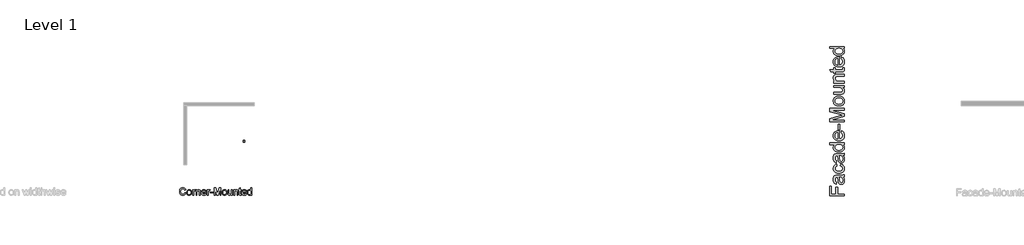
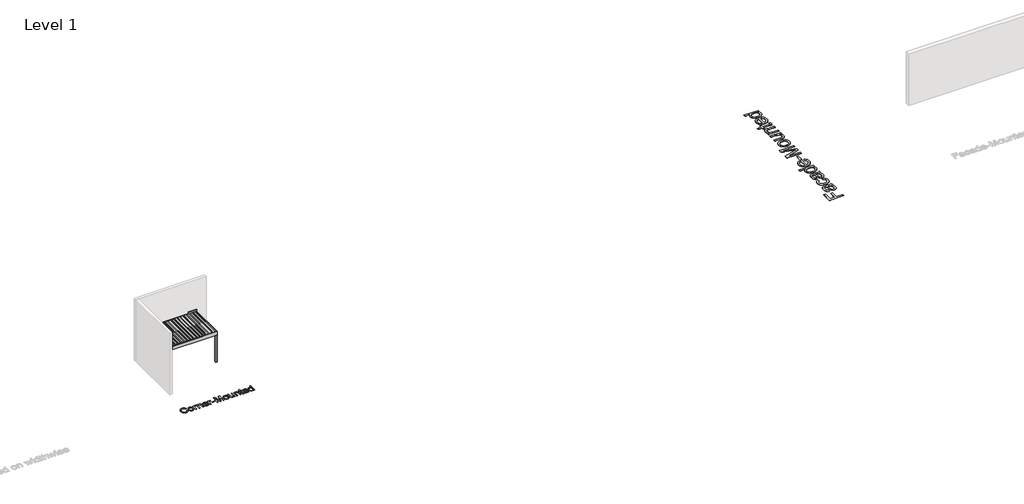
# One storey, part 28 of 47: 3 proxies.
"""IFC4 building model written with IfcOpenShell, lengths in millimetres."""

from ifc_helpers import new_model, si_unit, origin, origin_with_axes, place, context, project, spatial, polyline, outline, extrude, transform, mapped, element, save
from components import generic_models_6262f930

model = new_model("IFC4")

# Units and contexts
model_context = context("Model", 3, world=origin())
ifc_project = project(units=[si_unit("LENGTHUNIT", "METRE", prefix="MILLI")], contexts=[model_context])

# Site, building, storey
site = spatial("IfcSite", under=ifc_project)
building = spatial("IfcBuilding", under=site)
storey = spatial("IfcBuildingStorey", under=building, Name="Level 1", Elevation=0.0)

# Proxies
placement = place(None, origin())
generic_models_shape = generic_models_6262f930(model_context)
element("IfcBuildingElementProxy", 1, Name="Renson_Algarve_Single : Algarve - Single", ObjectType="Renson_Algarve_Single : Algarve - Single", at=placement, inside=storey, context=model_context, shape_type="MappedRepresentation", body=[
    mapped(generic_models_shape, transform((20845.156869, 40772.1593685, 0.0), x_axis=(1.0, 0.0, 0.0), y_axis=(0.0, 1.0, 0.0), z_axis=(0.0, 0.0, 1.0))),
])
element("IfcBuildingElementProxy", 2, Name="1000mm Arial", ObjectType="1000mm Arial", at=placement, inside=storey, context=model_context, shape_type="SweptSolid", body=[
    extrude(outline(polyline([(64082.9998219, 35814.1157871), (63078.4367204, 35814.1157871), (63078.4367204, 36489.0566209), (63204.0071081, 36489.0566209), (63204.0071081, 35939.6861748), (63502.2367789, 35939.6861748), (63502.2367789, 36410.5751286), (63627.8071665, 36410.5751286), (63627.8071665, 35939.6861748), (64082.9998219, 35939.6861748), (64082.9998219, 35814.1157871)])), origin_with_axes(), (0.0, 0.0, 1.0), 5.0),
    extrude(outline(polyline([(63988.8220311, 37116.9085593), (64016.7657344, 37087.1331103), (64040.2641968, 37056.9131373), (64059.3174185, 37026.2486401), (64073.9253994, 36995.1396189), (64084.7625898, 36963.23352), (64092.5034401, 36930.1777899), (64097.1479503, 36895.9724286), (64098.6961204, 36860.617436), (64094.9713152, 36804.707037), (64083.7968996, 36755.6790969), (64065.1728736, 36713.5336158), (64039.0992371, 36678.2705937), (64007.2314593, 36650.4265252), (63971.225009, 36630.5379049), (63931.0798863, 36618.6047326), (63886.7960911, 36614.6270086), (63834.7407888, 36620.6357478), (63810.5065624, 36628.1466719), (63787.4679524, 36638.6619656), (63747.000933, 36666.4677131), (63715.3630814, 36701.8150414), (63691.4507517, 36743.35505), (63674.1602979, 36789.7388383), (63664.5340524, 36834.92701), (63655.2756888, 36898.3866542), (63635.4100611, 37026.7774705), (63624.1896603, 37076.3495693), (63612.1108681, 37116.1727953), (63584.1518364, 37116.9085593), (63553.7096013, 37114.7472526), (63528.1111458, 37108.2633324), (63507.35647, 37097.4567988), (63491.4455737, 37082.3276518), (63475.5653342, 37056.1773733), (63464.222306, 37024.3249239), (63457.4164891, 36986.7703035), (63455.1478835, 36943.5135123), (63456.6577325, 36903.2917475), (63461.1872796, 36868.7108399), (63468.7365247, 36839.7707896), (63479.3054678, 36816.4715966), (63493.7218435, 36797.3264044), (63512.8133862, 36780.8483567), (63536.5800959, 36767.0374535), (63565.0219727, 36755.8936947), (63549.3256742, 36630.323307), (63513.1506114, 36639.8805747), (63480.6543685, 36652.1203152), (63451.8369455, 36667.0425287), (63426.6983425, 36684.647215), (63404.7327217, 36705.6931308), (63385.4342454, 36730.9390327), (63368.8029135, 36760.3849207), (63354.8387261, 36794.0307949), (63343.7869378, 36831.1945406), (63335.8928034, 36871.1940434), (63331.1563227, 36914.0293032), (63329.5774958, 36959.70032), (63335.1570394, 37044.5890904), (63342.1314689, 37080.4345923), (63351.8956702, 37111.8808387), (63377.06493, 37162.6178972), (63391.787874, 37182.1692924), (63407.9363608, 37197.8425983), (63446.1041178, 37221.2031049), (63493.1623563, 37236.3475804), (63536.5724317, 37240.9461054), (63603.0364455, 37242.478947), (63759.2636662, 37242.478947), (63895.3493475, 37244.0731023), (63977.4176893, 37248.8555683), (64031.3430584, 37258.2978728), (64082.9998219, 37273.8715439), (64082.9998219, 37148.3011562), (64039.3444918, 37128.1902738), (63988.8220311, 37116.9085593)]), holes=[polyline([(63737.6812558, 37116.9085593), (63758.5892158, 37032.5409551), (63776.1862379, 36914.3282073), (63785.8124835, 36849.1824373), (63796.542375, 36806.2935281), (63810.4605771, 36778.1812123), (63829.6517546, 36757.3652227), (63852.6443793, 36744.4893529), (63877.9669233, 36740.1973963), (63897.4799974, 36742.5349798), (63915.3069458, 36749.5477303), (63931.4477683, 36761.2356479), (63945.902465, 36777.5987324), (63957.8126446, 36798.4836999), (63966.3199158, 36823.737266), (63971.4242785, 36853.3594308), (63973.1257327, 36887.3501943), (63971.2480017, 36922.0537292), (63965.6148086, 36954.7952268), (63956.2261535, 36985.574687), (63943.0820364, 37014.39211), (63927.2707748, 37040.3891043), (63909.8806863, 37062.7072787), (63890.911771, 37081.3466331), (63870.3640287, 37096.3071676), (63851.9699289, 37104.9983797), (63829.6517546, 37111.2063884), (63773.243182, 37116.1727953), (63737.6812558, 37116.9085593)])]), origin_with_axes(), (0.0, 0.0, 1.0), 5.0),
    extrude(outline(polyline([(63816.1627481, 37886.0271839), (63831.8590465, 38011.5975716), (63891.1110404, 37997.9399525), (63943.5418889, 37976.5874684), (63989.1515921, 37947.5401192), (64027.94015, 37910.7979049), (64058.895887, 37867.9089956), (64081.0071278, 37820.4215614), (64094.2738722, 37768.3356023), (64098.6961204, 37711.6511182), (64097.1536985, 37675.5277887), (64092.5264327, 37641.2247087), (64084.8143232, 37608.7418782), (64074.0173699, 37578.0792971), (64060.1355727, 37549.2369655), (64043.1689317, 37522.2148833), (64023.1174469, 37497.0130506), (63999.9811183, 37473.6314673), (63973.9630474, 37452.5644749), (63945.2663358, 37434.3064149), (63913.8909833, 37418.8572871), (63879.8369901, 37406.2170917), (63843.1043561, 37396.3858286), (63803.6930813, 37389.3634978), (63716.8346094, 37383.7456332), (63659.1001288, 37386.1445303), (63605.0904533, 37393.3412219), (63554.8055831, 37405.3357077), (63508.2455181, 37422.127988), (63466.3452917, 37443.8330257), (63430.0399373, 37470.565784), (63399.3294549, 37502.3262629), (63374.2138445, 37539.1144624), (63354.685442, 37579.2672494), (63340.736583, 37621.1214905), (63332.3672676, 37664.6771859), (63329.5774958, 37709.9343355), (63333.4095999, 37765.6454652), (63344.9059123, 37816.0376343), (63364.0664328, 37861.1108429), (63390.8911616, 37900.865091), (63424.766962, 37934.6259283), (63465.0806973, 37961.7189044), (63511.8323676, 37982.1440193), (63565.0219727, 37995.9012731), (63580.7182712, 37870.3308854), (63551.3873463, 37860.5283631), (63525.9345107, 37847.5528586), (63504.3597645, 37831.4043718), (63486.6631077, 37812.0829029), (63472.8751971, 37790.078961), (63463.0266895, 37765.8830556), (63457.117585, 37739.4951867), (63455.1478835, 37710.9153542), (63459.0259728, 37668.248707), (63470.6602409, 37629.7667174), (63490.0506878, 37595.4693856), (63517.1973133, 37565.3567114), (63552.7285827, 37540.8389093), (63597.2729609, 37523.3261935), (63650.8304481, 37512.818564), (63713.4010441, 37509.3160208), (63776.9143377, 37512.7419219), (63831.0926257, 37523.0196252), (63875.9359081, 37540.1491306), (63911.4441848, 37564.1304381), (63938.429862, 37593.645304), (63957.7053457, 37627.3754845), (63969.2706359, 37665.3209794), (63973.1257327, 37707.4817889), (63970.7191713, 37741.457224), (63963.4994871, 37772.5049316), (63951.4666802, 37800.6249116), (63934.6207505, 37825.817164), (63912.7777571, 37847.3765818), (63885.7537588, 37864.5980577), (63853.5487558, 37877.4815917), (63816.1627481, 37886.0271839)])), origin_with_axes(), (0.0, 0.0, 1.0), 5.0),
    extrude(outline(polyline([(63988.8220311, 38592.3606146), (64016.7657344, 38562.5851657), (64040.2641968, 38532.3651926), (64059.3174185, 38501.7006955), (64073.9253994, 38470.5916742), (64084.7625898, 38438.6855754), (64092.5034401, 38405.6298453), (64097.1479503, 38371.4244839), (64098.6961204, 38336.0694913), (64094.9713152, 38280.1590923), (64083.7968996, 38231.1311522), (64065.1728736, 38188.9856711), (64039.0992371, 38153.7226491), (64007.2314593, 38125.8785805), (63971.225009, 38105.9899602), (63931.0798863, 38094.056788), (63886.7960911, 38090.0790639), (63834.7407888, 38096.0878031), (63810.5065624, 38103.5987272), (63787.4679524, 38114.1140209), (63747.000933, 38141.9197684), (63715.3630814, 38177.2670967), (63691.4507517, 38218.8071054), (63674.1602979, 38265.1908936), (63664.5340524, 38310.3790653), (63655.2756888, 38373.8387095), (63635.4100611, 38502.2295258), (63624.1896603, 38551.8016247), (63612.1108681, 38591.6248506), (63584.1518364, 38592.3606146), (63553.7096013, 38590.1993079), (63528.1111458, 38583.7153878), (63507.35647, 38572.9088541), (63491.4455737, 38557.7797071), (63475.5653342, 38531.6294286), (63464.222306, 38499.7769792), (63457.4164891, 38462.2223588), (63455.1478835, 38418.9655676), (63456.6577325, 38378.7438028), (63461.1872796, 38344.1628952), (63468.7365247, 38315.2228449), (63479.3054678, 38291.9236519), (63493.7218435, 38272.7784597), (63512.8133862, 38256.300412), (63536.5800959, 38242.4895088), (63565.0219727, 38231.34575), (63549.3256742, 38105.7753624), (63513.1506114, 38115.33263), (63480.6543685, 38127.5723706), (63451.8369455, 38142.494584), (63426.6983425, 38160.0992703), (63404.7327217, 38181.1451861), (63385.4342454, 38206.391088), (63368.8029135, 38235.8369761), (63354.8387261, 38269.4828502), (63343.7869378, 38306.6465959), (63335.8928034, 38346.6460987), (63331.1563227, 38389.4813585), (63329.5774958, 38435.1523754), (63335.1570394, 38520.0411458), (63342.1314689, 38555.8866477), (63351.8956702, 38587.332894), (63377.06493, 38638.0699525), (63391.787874, 38657.6213477), (63407.9363608, 38673.2946536), (63446.1041178, 38696.6551603), (63493.1623563, 38711.7996357), (63536.5724317, 38716.3981607), (63603.0364455, 38717.9310023), (63759.2636662, 38717.9310023), (63895.3493475, 38719.5251576), (63977.4176893, 38724.3076236), (64031.3430584, 38733.7499281), (64082.9998219, 38749.3235992), (64082.9998219, 38623.7532116), (64039.3444918, 38603.6423292), (63988.8220311, 38592.3606146)]), holes=[polyline([(63737.6812558, 38592.3606146), (63758.5892158, 38507.9930104), (63776.1862379, 38389.7802626), (63785.8124835, 38324.6344926), (63796.542375, 38281.7455834), (63810.4605771, 38253.6332676), (63829.6517546, 38232.817278), (63852.6443793, 38219.9414082), (63877.9669233, 38215.6494516), (63897.4799974, 38217.9870351), (63915.3069458, 38224.9997856), (63931.4477683, 38236.6877032), (63945.902465, 38253.0507878), (63957.8126446, 38273.9357552), (63966.3199158, 38299.1893213), (63971.4242785, 38328.8114861), (63973.1257327, 38362.8022496), (63971.2480017, 38397.5057845), (63965.6148086, 38430.2472821), (63956.2261535, 38461.0267424), (63943.0820364, 38489.8441653), (63927.2707748, 38515.8411596), (63909.8806863, 38538.159334), (63890.911771, 38556.7986884), (63870.3640287, 38571.7592229), (63851.9699289, 38580.450435), (63829.6517546, 38586.6584437), (63773.243182, 38591.6248506), (63737.6812558, 38592.3606146)])]), origin_with_axes(), (0.0, 0.0, 1.0), 5.0),
    extrude(outline(polyline([(64082.9998219, 39345.7829408), (63964.5418195, 39345.7829408), (63995.9842337, 39327.9904813), (64023.2343261, 39308.212992), (64046.2920966, 39286.4504727), (64065.1575451, 39262.7029235), (64079.8306718, 39236.9703444), (64090.3114766, 39209.2527353), (64096.5999594, 39179.5500963), (64098.6961204, 39147.8624274), (64095.6610939, 39106.4143892), (64086.5560145, 39066.6831338), (64071.3808822, 39028.6686609), (64050.135697, 38992.3709707), (64023.4565881, 38958.924366), (63991.9796849, 38929.4631496), (63955.7049874, 38903.9873214), (63914.6324954, 38882.4968815), (63869.5439584, 38865.436354), (63821.2211255, 38853.2502629), (63769.6639967, 38845.9386082), (63714.8725721, 38843.50139), (63661.0851587, 38845.747003), (63609.8422624, 38852.4838421), (63561.1438833, 38863.7119071), (63514.9900214, 38879.4311982), (63472.7295772, 38899.6340511), (63435.7114514, 38924.3128016), (63403.9356441, 38953.4674497), (63377.4021552, 38987.0979955), (63356.4788667, 39024.0164865), (63341.5336606, 39063.0349706), (63332.566537, 39104.1534478), (63329.5774958, 39147.371918), (63331.7158099, 39178.9791128), (63338.1307522, 39208.8082112), (63348.8223227, 39236.8592134), (63363.7905213, 39263.1321192), (63382.1769569, 39287.3356888), (63403.123238, 39309.1786822), (63426.6293646, 39328.6610996), (63452.6953368, 39345.7829408), (63078.4367204, 39345.7829408), (63078.4367204, 39471.3533284), (64082.9998219, 39471.3533284), (64082.9998219, 39345.7829408)]), holes=[polyline([(63714.3820627, 38969.0717777), (63775.2741971, 38972.6126419), (63827.9656288, 38983.2352345), (63872.4563575, 39000.9395555), (63908.7463835, 39025.725605), (63936.9123488, 39055.3247772), (63957.0308954, 39087.4684665), (63969.1020234, 39122.1566729), (63973.1257327, 39159.3893965), (63969.2859644, 39196.7983969), (63957.7666594, 39231.2796698), (63938.5678178, 39262.8332151), (63911.6894395, 39291.4590328), (63876.9169267, 39315.2257425), (63834.0356817, 39332.2019638), (63783.0457043, 39342.3876965), (63723.9469946, 39345.7829408), (63659.1537782, 39342.3263828), (63603.5882685, 39331.9567091), (63557.2504655, 39314.6739195), (63520.1403693, 39290.4780142), (63491.7061567, 39261.2237313), (63471.3960049, 39228.7658095), (63459.2099138, 39193.1042486), (63455.1478835, 39154.2390486), (63459.0489655, 39116.270561), (63470.7522114, 39081.5823546), (63490.2576214, 39050.1744292), (63517.5651953, 39022.046785), (63553.2727415, 38998.8702193), (63597.9780681, 38982.3155295), (63651.6811752, 38972.3827157), (63714.3820627, 38969.0717777)])]), origin_with_axes(), (0.0, 0.0, 1.0), 5.0),
    extrude(outline(polyline([(63863.2516435, 40176.2152312), (63878.9479419, 40299.3330723), (63928.2594577, 40280.4561274), (63971.7155184, 40254.972635), (64009.316124, 40222.8825951), (64041.0612745, 40184.1860078), (64066.2765195, 40139.2814117), (64084.2874089, 40088.5673459), (64095.0939425, 40032.0438101), (64098.6961204, 39969.7108046), (64097.1422021, 39929.6921413), (64092.4804475, 39891.7964637), (64084.7108564, 39856.0237718), (64073.8334289, 39822.3740655), (64059.8481649, 39790.8473449), (64042.7550645, 39761.4436101), (64022.5541276, 39734.1628609), (63999.2453543, 39709.0050973), (63973.1314808, 39686.4148436), (63944.5152433, 39666.8366236), (63913.3966419, 39650.2704375), (63879.7756764, 39636.7162853), (63843.652347, 39626.1741669), (63805.0266535, 39618.6440823), (63763.8985961, 39614.1260315), (63720.2681747, 39612.6200146), (63675.1528129, 39614.1413599), (63632.6356177, 39618.7053959), (63592.7165891, 39626.3121226), (63555.3957272, 39636.9615399), (63520.6730318, 39650.653648), (63488.548503, 39667.3884466), (63459.0221407, 39687.165936), (63432.0939451, 39709.986116), (63408.0666523, 39735.2320179), (63387.2429985, 39762.286673), (63369.6229838, 39791.1500812), (63355.2066081, 39821.8222425), (63343.9938715, 39854.303157), (63335.9847739, 39888.5928246), (63331.1793153, 39924.6912454), (63329.5774958, 39962.5984193), (63331.1754832, 39999.2659076), (63335.9694455, 40034.2204453), (63343.9593825, 40067.4620324), (63355.1452944, 40098.9906691), (63369.5271812, 40128.8063551), (63387.1050428, 40156.9090907), (63407.8788792, 40183.2988757), (63431.8486904, 40207.9757101), (63458.7155724, 40230.3072969), (63488.180621, 40249.6613387), (63520.2438361, 40266.0378356), (63554.9052178, 40279.4367877), (63592.1647662, 40289.8581948), (63632.0224811, 40297.3020571), (63719.5324107, 40303.2571469), (63753.3775542, 40302.5213829), (63753.3775542, 39738.1904023), (63803.4861477, 39745.4637359), (63847.371404, 39759.9260968), (63885.0333233, 39781.5774851), (63916.4719054, 39810.4179007), (63941.2579548, 39844.8531883), (63958.9622759, 39883.2891925), (63969.5848685, 39925.7259135), (63973.1257327, 39972.1633512), (63971.4855921, 40006.8975429), (63966.5651704, 40038.995247), (63958.3644676, 40068.4564635), (63946.8834837, 40095.2811923), (63931.8156503, 40119.4694335), (63912.8543991, 40141.021187), (63889.9997302, 40159.9364529), (63863.2516435, 40176.2152312)]), holes=[polyline([(63627.8071665, 39738.1904023), (63627.8071665, 40177.6867592), (63592.2758972, 40171.2334959), (63561.4657801, 40160.7028737), (63535.3768153, 40146.0948929), (63514.0090027, 40127.4095532), (63488.257263, 40093.1658708), (63469.8631633, 40054.2010361), (63458.8267034, 40010.5150492), (63455.1478835, 39962.10791), (63458.0832752, 39917.9544064), (63466.8894505, 39877.4643943), (63481.5664093, 39840.6378737), (63502.1141515, 39807.4748447), (63527.5823155, 39779.6461046), (63557.0205393, 39758.8224508), (63590.428823, 39745.0038834), (63627.8071665, 39738.1904023)])]), origin_with_axes(), (0.0, 0.0, 1.0), 5.0),
    extrude(outline(polyline([(63784.7701511, 40366.0423407), (63659.1997635, 40366.0423407), (63659.1997635, 40758.4498022), (63784.7701511, 40758.4498022), (63784.7701511, 40366.0423407)])), origin_with_axes(), (0.0, 0.0, 1.0), 5.0),
    extrude(outline(polyline([(64082.9998219, 40915.4127868), (63078.4367204, 40915.4127868), (63078.4367204, 41131.4821453), (63786.4869338, 41337.0055533), (63934.3754959, 41378.4535914), (63774.2242006, 41423.3351949), (63078.4367204, 41625.4250375), (63078.4367204, 41841.494396), (64082.9998219, 41841.494396), (64082.9998219, 41715.9240084), (63204.0071081, 41715.9240084), (64082.9998219, 41463.5569597), (64082.9998219, 41293.3502232), (63204.0071081, 41040.9831745), (64082.9998219, 41040.9831745), (64082.9998219, 40915.4127868)])), origin_with_axes(), (0.0, 0.0, 1.0), 5.0),
    extrude(outline(polyline([(63714.1368081, 42014.1536791), (63664.7141613, 42015.8513012), (63618.5947882, 42020.9441676), (63575.778689, 42029.4322782), (63536.2658634, 42041.3156331), (63500.0563116, 42056.5942322), (63467.1500336, 42075.2680756), (63437.5470293, 42097.3371632), (63411.2472987, 42122.801495), (63375.5167599, 42170.6568112), (63349.9949465, 42223.4785344), (63334.6818585, 42281.2666644), (63329.5774958, 42344.0212015), (63331.131414, 42379.4892411), (63335.7931687, 42413.2979797), (63343.5627598, 42445.4474172), (63354.4401873, 42475.9375536), (63368.4254513, 42504.7683889), (63385.5185517, 42531.9399231), (63405.7194885, 42557.4521563), (63429.0282618, 42581.3050883), (63455.0769895, 42602.8894148), (63483.4977897, 42621.595831), (63514.2906624, 42637.4243371), (63547.4556074, 42650.3749329), (63582.992625, 42660.4476186), (63620.9017149, 42667.6423941), (63703.8361122, 42673.3982145), (63771.0512184, 42670.8536973), (63830.6940869, 42663.2201459), (63882.7647176, 42650.4975603), (63927.2631106, 42632.6859403), (63965.6991149, 42610.0075482), (63999.5825795, 42582.6846458), (64028.9135044, 42550.7172333), (64053.6918896, 42514.1053106), (64073.3812406, 42474.2744204), (64087.4450627, 42432.6501055), (64095.8833559, 42389.2323658), (64098.6961204, 42344.0212015), (64097.1479503, 42307.9936746), (64092.5034401, 42273.7327477), (64084.7625898, 42241.2384209), (64073.9253994, 42210.510694), (64059.9918688, 42181.5495672), (64042.9619981, 42154.3550403), (64022.8357873, 42128.9271134), (63999.6132363, 42105.2657866), (63973.4782863, 42083.9113864), (63944.6148781, 42065.4042396), (63913.0230117, 42049.7443461), (63878.7026873, 42036.931706), (63841.6539047, 42026.9663192), (63801.8766639, 42019.8481858), (63714.1368081, 42014.1536791)]), holes=[polyline([(63713.8915534, 42139.7240668), (63774.7990162, 42143.3569015), (63827.5364331, 42154.2554056), (63872.103804, 42172.4195791), (63908.5011289, 42197.849422), (63936.774393, 42228.7821665), (63956.9695817, 42263.4550445), (63969.0866949, 42301.8680562), (63973.1257327, 42344.0212015), (63969.0637023, 42385.9597489), (63956.8776112, 42424.2194764), (63936.5674594, 42458.8003839), (63908.1332469, 42489.7024715), (63871.3757042, 42515.1323145), (63826.0955619, 42533.296488), (63772.2928201, 42544.1949921), (63709.9674788, 42547.8278268), (63650.9913964, 42544.1719995), (63599.6335371, 42533.2045175), (63555.8939007, 42514.9253808), (63519.7724873, 42489.3345895), (63491.4992231, 42458.3175388), (63471.3040344, 42423.7596239), (63459.1869212, 42385.6608448), (63455.1478835, 42344.0212015), (63459.1715928, 42301.8680562), (63471.2427208, 42263.4550445), (63491.3612674, 42228.7821665), (63519.5272326, 42197.849422), (63555.8172586, 42172.4195791), (63600.3079874, 42154.2554056), (63652.999419, 42143.3569015), (63713.8915534, 42139.7240668)])]), origin_with_axes(), (0.0, 0.0, 1.0), 5.0),
    extrude(outline(polyline([(64082.9998219, 43285.5538544), (63956.2031609, 43285.5538544), (63989.5999483, 43263.7721746), (64018.5438307, 43240.120428), (64043.0348081, 43214.5986146), (64063.0728805, 43187.2067344), (64078.6580479, 43157.9447874), (64089.7903104, 43126.8127735), (64096.4696679, 43093.8106929), (64098.6961204, 43058.9385454), (64097.1326219, 43027.8295242), (64092.4421264, 42997.7781637), (64084.6246341, 42968.784464), (64073.6801447, 42940.848425), (64045.4758584, 42893.0850793), (64028.9824823, 42874.4917101), (64010.8949509, 42859.4238767), (63968.8950897, 42836.7684772), (63918.4339427, 42822.0225405), (63870.854538, 42816.5043106), (63801.6927229, 42814.6649006), (63345.2737942, 42814.6649006), (63345.2737942, 42940.2352883), (63742.586349, 42940.2352883), (63822.04886, 42942.1360119), (63870.6092834, 42947.8381829), (63893.2416903, 42955.3567711), (63913.3142516, 42966.1403121), (63930.8269674, 42980.1888058), (63945.7798377, 42997.5022522), (63957.7436668, 43017.5594852), (63966.2892589, 43039.8393385), (63971.4166142, 43064.3418122), (63973.1257327, 43091.0669063), (63971.3782932, 43118.5890781), (63966.1359748, 43145.2375301), (63957.3987774, 43171.0122624), (63945.166701, 43195.9132749), (63929.9225909, 43218.5916671), (63912.149292, 43237.6985382), (63891.8468044, 43253.2338883), (63869.015128, 43265.1977174), (63842.1980634, 43274.1035273), (63809.939411, 43280.4648202), (63729.0973425, 43285.5538544), (63345.2737942, 43285.5538544), (63345.2737942, 43411.1242421), (64082.9998219, 43411.1242421), (64082.9998219, 43285.5538544)])), origin_with_axes(), (0.0, 0.0, 1.0), 5.0),
    extrude(outline(polyline([(64082.9998219, 43583.7835252), (63345.2737942, 43583.7835252), (63345.2737942, 43709.3539129), (63448.2807529, 43709.3539129), (63420.459677, 43730.0702677), (63396.3480779, 43752.9785861), (63375.9459556, 43778.0788681), (63359.2533101, 43805.3711136), (63346.2701413, 43834.8553227), (63336.9964494, 43866.5314953), (63331.4322342, 43900.3996315), (63329.5774958, 43936.4597312), (63335.5555782, 43998.3558769), (63343.0281812, 44027.3495767), (63353.4898255, 44055.040361), (63366.3810237, 44080.3782334), (63381.1422888, 44102.3131974), (63397.7736206, 44120.8452529), (63416.2750193, 44135.9744), (63458.7960466, 44158.8137405), (63508.6134001, 44173.6209908), (63556.2541185, 44178.5873977), (63630.0144585, 44180.2428667), (64082.9998219, 44180.2428667), (64082.9998219, 44054.672479), (63646.9370303, 44054.672479), (63582.0058581, 44051.0549727), (63535.8366677, 44040.2024539), (63518.3699372, 44031.5802196), (63502.757945, 44020.183542), (63489.0006912, 44006.012421), (63477.0981759, 43989.0668566), (63460.6354566, 43949.1823169), (63455.1478835, 43902.8598423), (63458.2288952, 43864.7304064), (63467.4719303, 43829.3141001), (63482.8769889, 43796.6109236), (63504.4440708, 43766.6208768), (63534.6257228, 43741.5665801), (63575.8744916, 43723.6706539), (63628.190377, 43712.9330981), (63691.573379, 43709.3539129), (64082.9998219, 43709.3539129), (64082.9998219, 43583.7835252)])), origin_with_axes(), (0.0, 0.0, 1.0), 5.0),
    extrude(outline(polyline([(63978.2760806, 44619.7392236), (64086.6786419, 44635.4355221), (64095.6917507, 44585.7101391), (64098.6961204, 44541.502986), (64093.4844588, 44481.2316524), (64086.9698818, 44456.8441418), (64077.849474, 44436.2887354), (64053.7532033, 44404.5282564), (64039.2678497, 44392.7866894), (64023.157684, 44383.8042374), (64001.5599452, 44377.1517046), (63970.6118724, 44372.3998955), (63880.6647246, 44368.5984482), (63470.8441819, 44368.5984482), (63470.8441819, 44274.4206575), (63345.2737942, 44274.4206575), (63345.2737942, 44368.5984482), (63165.9926353, 44368.5984482), (63092.1709816, 44494.1688359), (63345.2737942, 44494.1688359), (63345.2737942, 44619.7392236), (63470.8441819, 44619.7392236), (63470.8441819, 44494.1688359), (63876.9859046, 44494.1688359), (63918.3113154, 44495.8243049), (63941.7331358, 44500.7907118), (63954.7009761, 44509.4665956), (63964.6644468, 44522.2504949), (63971.0104112, 44540.3686832), (63973.1257327, 44565.0474337), (63978.2760806, 44619.7392236)])), origin_with_axes(), (0.0, 0.0, 1.0), 5.0),
    extrude(outline(polyline([(63863.2516435, 45261.8159325), (63878.9479419, 45384.9337736), (63928.2594577, 45366.0568287), (63971.7155184, 45340.5733363), (64009.316124, 45308.4832965), (64041.0612745, 45269.7867091), (64066.2765195, 45224.8821131), (64084.2874089, 45174.1680472), (64095.0939425, 45117.6445115), (64098.6961204, 45055.3115059), (64097.1422021, 45015.2928426), (64092.4804475, 44977.397165), (64084.7108564, 44941.6244731), (64073.8334289, 44907.9747668), (64059.8481649, 44876.4480463), (64042.7550645, 44847.0443114), (64022.5541276, 44819.7635622), (63999.2453543, 44794.6057987), (63973.1314808, 44772.0155449), (63944.5152433, 44752.437325), (63913.3966419, 44735.8711389), (63879.7756764, 44722.3169866), (63843.652347, 44711.7748682), (63805.0266535, 44704.2447836), (63763.8985961, 44699.7267328), (63720.2681747, 44698.2207159), (63675.1528129, 44699.7420613), (63632.6356177, 44704.3060973), (63592.7165891, 44711.9128239), (63555.3957272, 44722.5622413), (63520.6730318, 44736.2543493), (63488.548503, 44752.989148), (63459.0221407, 44772.7666373), (63432.0939451, 44795.5868173), (63408.0666523, 44820.8327192), (63387.2429985, 44847.8873743), (63369.6229838, 44876.7507825), (63355.2066081, 44907.4229438), (63343.9938715, 44939.9038583), (63335.9847739, 44974.193526), (63331.1793153, 45010.2919467), (63329.5774958, 45048.1991207), (63331.1754832, 45084.8666089), (63335.9694455, 45119.8211466), (63343.9593825, 45153.0627338), (63355.1452944, 45184.5913704), (63369.5271812, 45214.4070565), (63387.1050428, 45242.509792), (63407.8788792, 45268.899577), (63431.8486904, 45293.5764114), (63458.7155724, 45315.9079982), (63488.180621, 45335.26204), (63520.2438361, 45351.638537), (63554.9052178, 45365.037489), (63592.1647662, 45375.4588962), (63632.0224811, 45382.9027584), (63719.5324107, 45388.8578482), (63753.3775542, 45388.1220842), (63753.3775542, 44823.7911036), (63803.4861477, 44831.0644372), (63847.371404, 44845.5267982), (63885.0333233, 44867.1781864), (63916.4719054, 44896.018602), (63941.2579548, 44930.4538896), (63958.9622759, 44968.8898939), (63969.5848685, 45011.3266149), (63973.1257327, 45057.7640525), (63971.4855921, 45092.4982443), (63966.5651704, 45124.5959483), (63958.3644676, 45154.0571648), (63946.8834837, 45180.8818936), (63931.8156503, 45205.0701348), (63912.8543991, 45226.6218883), (63889.9997302, 45245.5371542), (63863.2516435, 45261.8159325)]), holes=[polyline([(63627.8071665, 44823.7911036), (63627.8071665, 45263.2874605), (63592.2758972, 45256.8341972), (63561.4657801, 45246.3035751), (63535.3768153, 45231.6955942), (63514.0090027, 45213.0102545), (63488.257263, 45178.7665721), (63469.8631633, 45139.8017375), (63458.8267034, 45096.1157505), (63455.1478835, 45047.7086113), (63458.0832752, 45003.5551077), (63466.8894505, 44963.0650956), (63481.5664092, 44926.2385751), (63502.1141515, 44893.075546), (63527.5823155, 44865.2468059), (63557.0205393, 44844.4231522), (63590.428823, 44830.6045847), (63627.8071665, 44823.7911036)])]), origin_with_axes(), (0.0, 0.0, 1.0), 5.0),
    extrude(outline(polyline([(64082.9998219, 45969.6208913), (63964.5418195, 45969.6208913), (63995.9842337, 45951.8284318), (64023.2343261, 45932.0509425), (64046.2920966, 45910.2884232), (64065.1575451, 45886.540874), (64079.8306718, 45860.8082949), (64090.3114766, 45833.0906858), (64096.5999594, 45803.3880468), (64098.6961204, 45771.7003778), (64095.6610939, 45730.2523397), (64086.5560145, 45690.5210842), (64071.3808822, 45652.5066114), (64050.135697, 45616.2089212), (64023.4565881, 45582.7623165), (63991.9796849, 45553.3011), (63955.7049874, 45527.8252719), (63914.6324954, 45506.334832), (63869.5439584, 45489.2743045), (63821.2211255, 45477.0882134), (63769.6639967, 45469.7765587), (63714.8725721, 45467.3393405), (63661.0851587, 45469.5849535), (63609.8422624, 45476.3217926), (63561.1438833, 45487.5498576), (63514.9900214, 45503.2691487), (63472.7295772, 45523.4720016), (63435.7114514, 45548.1507521), (63403.9356441, 45577.3054002), (63377.4021552, 45610.935946), (63356.4788667, 45647.854437), (63341.5336606, 45686.8729211), (63332.566537, 45727.9913983), (63329.5774958, 45771.2098685), (63331.7158099, 45802.8170633), (63338.1307522, 45832.6461617), (63348.8223227, 45860.6971638), (63363.7905213, 45886.9700697), (63382.1769569, 45911.1736393), (63403.123238, 45933.0166327), (63426.6293646, 45952.4990501), (63452.6953368, 45969.6208913), (63078.4367204, 45969.6208913), (63078.4367204, 46095.1912789), (64082.9998219, 46095.1912789), (64082.9998219, 45969.6208913)]), holes=[polyline([(63714.3820627, 45592.9097282), (63775.2741971, 45596.4505924), (63827.9656288, 45607.073185), (63872.4563575, 45624.777506), (63908.7463835, 45649.5635554), (63936.9123488, 45679.1627276), (63957.0308954, 45711.306417), (63969.1020234, 45745.9946234), (63973.1257327, 45783.227347), (63969.2859644, 45820.6363474), (63957.7666594, 45855.1176203), (63938.5678178, 45886.6711655), (63911.6894395, 45915.2969833), (63876.9169267, 45939.063693), (63834.0356817, 45956.0399143), (63783.0457043, 45966.225647), (63723.9469946, 45969.6208913), (63659.1537782, 45966.1643333), (63603.5882685, 45955.7946596), (63557.2504655, 45938.51187), (63520.1403693, 45914.3159646), (63491.7061567, 45885.0616818), (63471.3960049, 45852.60376), (63459.2099138, 45816.942199), (63455.1478835, 45778.0769991), (63459.0489655, 45740.1085115), (63470.7522114, 45705.420305), (63490.2576214, 45674.0123797), (63517.5651953, 45645.8847355), (63553.2727415, 45622.7081698), (63597.9780681, 45606.15348), (63651.6811752, 45596.2206661), (63714.3820627, 45592.9097282)])]), origin_with_axes(), (0.0, 0.0, 1.0), 5.0),
])
element("IfcBuildingElementProxy", 3, Name="500mm Arial", ObjectType="500mm Arial", at=placement, inside=storey, context=model_context, shape_type="SweptSolid", body=[
    extrude(outline(polyline([(18729.7725136, 36050.7047635), (18792.5577075, 36034.5179557), (18780.1340259, 35995.4726468), (18763.5870003, 35961.3554239), (18742.9166307, 35932.1662868), (18718.1229171, 35907.9052357), (18689.7653466, 35888.8328535), (18658.4034066, 35875.2097233), (18624.0370968, 35867.0358453), (18586.6664175, 35864.3112192), (18548.3798653, 35866.3728913), (18513.8411109, 35872.5579073), (18483.0501543, 35882.8662674), (18456.0069955, 35897.2979715), (18432.3399205, 35915.6384218), (18411.6772151, 35937.6730204), (18394.0188794, 35963.4017675), (18379.3649132, 35992.8246629), (18367.8571045, 36024.6694481), (18359.6372412, 36057.6638645), (18354.7053232, 36091.8079122), (18353.0613506, 36127.1015911), (18354.9199211, 36164.970444), (18360.4956325, 36200.340765), (18369.788485, 36233.2125541), (18382.7984785, 36263.5858113), (18399.2343731, 36290.958531), (18418.8049288, 36314.8287076), (18441.5101457, 36335.196341), (18467.3500237, 36352.0614312), (18495.4470111, 36365.2860225), (18524.923556, 36374.7321591), (18555.7796583, 36380.3998411), (18588.0153181, 36382.2890684), (18623.9259658, 36379.844186), (18656.8552365, 36372.5095387), (18686.8031302, 36360.2851266), (18713.7696468, 36343.1709496), (18737.3102624, 36321.6191961), (18756.9804528, 36296.0820542), (18772.7802181, 36266.5595241), (18784.7095582, 36233.0516057), (18721.9243644, 36218.0910713), (18712.0375358, 36242.7813181), (18700.158013, 36263.8770513), (18686.2857961, 36281.3782708), (18670.4208851, 36295.2849766), (18652.4713094, 36305.8807445), (18632.3450986, 36313.4491501), (18610.0422526, 36317.9901935), (18585.5627715, 36319.5038746), (18557.3968063, 36317.825413), (18531.6374024, 36312.7900282), (18508.2845599, 36304.3977202), (18487.3382788, 36292.648489), (18469.0629743, 36278.0711649), (18453.7230615, 36261.1945784), (18441.3185405, 36242.0187294), (18431.8494112, 36220.5436179), (18419.8472611, 36174.5890253), (18415.8465444, 36127.2242185), (18420.5830251, 36069.2214906), (18434.7924672, 36019.0669119), (18445.5836723, 35997.4116915), (18459.0113652, 35978.6765345), (18475.0755456, 35962.8614408), (18493.7762137, 35949.9664104), (18535.4541781, 35932.8139124), (18580.4124236, 35927.0964131), (18607.7085012, 35929.043122), (18632.8202795, 35934.8832486), (18655.7477584, 35944.6167931), (18676.490938, 35958.2437553), (18694.5593089, 35975.7028217), (18709.4623618, 35996.9326785), (18721.2000967, 36021.9333258), (18729.7725136, 36050.7047635)])), origin_with_axes(), (0.0, 0.0, 1.0), 5.0),
    extrude(outline(polyline([(18855.3429013, 36056.5908754), (18858.7381456, 36104.3618853), (18868.9238783, 36145.5263477), (18885.9000995, 36180.0842626), (18909.6668093, 36208.0356301), (18933.5944674, 36225.9008995), (18960.0053289, 36238.6618062), (18988.899394, 36246.3183502), (19020.2766625, 36248.8705315), (19054.9150516, 36245.7626951), (19086.2348385, 36236.4391858), (19114.2360233, 36220.9000036), (19138.9186059, 36199.1451485), (19159.0639773, 36171.9103846), (19173.4535282, 36139.9314757), (19182.0872588, 36103.208422), (19184.965169, 36061.7412233), (19179.8761347, 35998.312236), (19173.5148419, 35972.2769206), (19164.6090319, 35950.0277241), (19153.2698358, 35930.809722), (19139.6083847, 35913.8679897), (19123.6246784, 35899.2025272), (19105.318717, 35886.8133346), (19064.5911145, 35869.9367481), (19020.2766625, 35864.3112192), (18985.1324356, 35867.4075594), (18953.5214088, 35876.6965797), (18925.4435819, 35892.1782804), (18900.898955, 35913.8526613), (18880.9681815, 35941.3518404), (18866.7319147, 35974.3079358), (18858.1901547, 36012.7209475), (18855.3429013, 36056.5908754)]), holes=[polyline([(18918.1280951, 36056.7135027), (18919.9445125, 36026.2597713), (18925.3937646, 35999.8910629), (18934.4758513, 35977.6073774), (18947.1907728, 35959.408715), (18962.657145, 35945.2720829), (18979.993584, 35935.1744886), (18999.2000898, 35929.115932), (19020.2766625, 35927.0964131), (19041.2459362, 35929.1274283), (19060.3757999, 35935.2204738), (19077.6662537, 35945.3755497), (19093.1172975, 35959.592656), (19105.832219, 35977.9714273), (19114.9143057, 36000.6114985), (19120.3635578, 36027.5128693), (19122.1799751, 36058.67554), (19120.3520615, 36088.1635812), (19114.8683205, 36113.8425109), (19105.7287522, 36135.7123291), (19092.9333565, 36153.7730358), (19077.4248312, 36167.9096679), (19060.1458737, 36178.0072622), (19041.0964841, 36184.0658188), (19020.2766625, 36186.0853377), (18999.2000898, 36184.073483), (18979.993584, 36178.037919), (18962.657145, 36167.9786457), (18947.1907728, 36153.8956631), (18934.4758513, 36135.7506501), (18925.3937646, 36113.5052857), (18919.9445125, 36087.1595699), (18918.1280951, 36056.7135027)])]), origin_with_axes(), (0.0, 0.0, 1.0), 5.0),
    extrude(outline(polyline([(19255.5985121, 35872.1593685), (19255.5985121, 36241.0223823), (19310.5355567, 36241.0223823), (19310.5355567, 36186.4532197), (19330.8303801, 36218.0910713), (19349.5310482, 36236.7304257), (19368.2930299, 36245.8355051), (19388.7717943, 36248.8705315), (19420.0417639, 36244.0267519), (19451.8022428, 36229.4954131), (19430.8329691, 36173.2094679), (19408.7600494, 36182.8663702), (19386.6871297, 36186.0853377), (19367.9404763, 36182.9889976), (19351.1865171, 36173.6999772), (19337.6515254, 36158.9233837), (19328.5617744, 36139.3643243), (19320.928223, 36104.2929074), (19318.3837059, 36066.0331799), (19318.3837059, 35872.1593685), (19255.5985121, 35872.1593685)])), origin_with_axes(), (0.0, 0.0, 1.0), 5.0),
    extrude(outline(polyline([(19491.042989, 35872.1593685), (19491.042989, 36241.0223823), (19553.8281828, 36241.0223823), (19553.8281828, 36189.518903), (19575.6405194, 36215.4852405), (19601.8367832, 36234.0326244), (19632.416974, 36245.1610547), (19667.381092, 36248.8705315), (19698.3291648, 36245.8814903), (19726.6714069, 36236.9143667), (19750.3078251, 36223.088135), (19767.1384263, 36205.5217698), (19778.5580966, 36184.2612561), (19785.9617218, 36159.3525794), (19789.2726597, 36098.6520502), (19789.2726597, 35872.1593685), (19726.4874659, 35872.1593685), (19726.4874659, 36090.1907643), (19724.6787127, 36122.6563504), (19719.2524533, 36145.7409455), (19709.2429974, 36162.2803069), (19693.6846546, 36175.1101915), (19673.7423848, 36183.3415511), (19650.5811475, 36186.0853377), (19631.5164296, 36184.5448318), (19613.8082764, 36179.9233143), (19597.4566882, 36172.220785), (19582.4616648, 36161.437244), (19569.9345164, 36146.346418), (19560.9865533, 36125.7220336), (19555.6177754, 36099.5640909), (19553.8281828, 36067.8725899), (19553.8281828, 35872.1593685), (19491.042989, 35872.1593685)])), origin_with_axes(), (0.0, 0.0, 1.0), 5.0),
    extrude(outline(polyline([(20133.8554619, 35982.0334577), (20195.4143824, 35974.1853085), (20185.97591, 35949.5295506), (20173.2341638, 35927.8015202), (20157.1891438, 35909.0012174), (20137.8408502, 35893.1286422), (20115.3885521, 35880.5210197), (20090.0315192, 35871.515575), (20061.7697513, 35866.1123082), (20030.6032486, 35864.3112192), (19991.6460781, 35867.4190557), (19956.934879, 35876.742565), (19926.4696513, 35892.2817472), (19900.2503949, 35914.0366023), (19879.1661581, 35941.4016577), (19864.1059889, 35973.7714412), (19855.0698874, 36011.1459527), (19852.0578536, 36053.5251921), (19855.1005442, 36097.3414706), (19864.2286162, 36135.9614158), (19879.4420696, 36169.3850279), (19900.7409043, 36197.6123069), (19926.8911828, 36220.0377802), (19956.6589675, 36236.0559754), (19990.0442586, 36245.6668925), (20027.0470559, 36248.8705315), (20062.8580689, 36245.6745567), (20095.2431808, 36236.0866322), (20124.2023916, 36220.106758), (20149.7357013, 36197.7349342), (20170.5785156, 36169.5689689), (20185.4662401, 36136.2066705), (20194.3988748, 36097.6480389), (20197.3764197, 36053.8930741), (20197.0085377, 36036.9705023), (19914.8430474, 36036.9705023), (19918.4797142, 36011.9162056), (19925.7108947, 35989.9735774), (19936.5365888, 35971.1426178), (19950.9567966, 35955.4233267), (19968.1744404, 35943.030302), (19987.3924425, 35934.1781415), (20008.610803, 35928.8668452), (20031.8295219, 35927.0964131), (20065.2454698, 35930.3766942), (20093.3884424, 35940.2175376), (20116.2584398, 35957.2320799), (20133.8554619, 35982.0334577)]), holes=[polyline([(19914.8430474, 36099.7556962), (20134.5912259, 36099.7556962), (20126.0992831, 36132.9263894), (20109.4526229, 36156.6547781), (20092.3307817, 36169.5306479), (20072.8483643, 36178.7276978), (20051.0053709, 36184.2459277), (20026.8018013, 36186.0853377), (19984.4800434, 36180.2145542), (19966.0667831, 36172.8760748), (19949.4852686, 36162.6022037), (19935.5708986, 36149.8681217), (19925.1590717, 36135.1490098), (19918.249788, 36118.4448679), (19914.8430474, 36099.7556962)])]), origin_with_axes(), (0.0, 0.0, 1.0), 5.0),
    extrude(outline(polyline([(20260.1616136, 35872.1593685), (20260.1616136, 36241.0223823), (20315.0986582, 36241.0223823), (20315.0986582, 36186.4532197), (20335.3934816, 36218.0910713), (20354.0941497, 36236.7304257), (20372.8561314, 36245.8355051), (20393.3348958, 36248.8705315), (20424.6048654, 36244.0267519), (20456.3653443, 36229.4954131), (20435.3960706, 36173.2094679), (20413.3231509, 36182.8663702), (20391.2502312, 36186.0853377), (20372.5035778, 36182.9889976), (20355.7496186, 36173.6999772), (20342.2146269, 36158.9233837), (20333.1248759, 36139.3643243), (20325.4913245, 36104.2929074), (20322.9468074, 36066.0331799), (20322.9468074, 35872.1593685), (20260.1616136, 35872.1593685)])), origin_with_axes(), (0.0, 0.0, 1.0), 5.0),
    extrude(outline(polyline([(20464.2134935, 36021.2742038), (20464.2134935, 36084.0593977), (20660.4172243, 36084.0593977), (20660.4172243, 36021.2742038), (20464.2134935, 36021.2742038)])), origin_with_axes(), (0.0, 0.0, 1.0), 5.0),
    extrude(outline(polyline([(20738.8987166, 35872.1593685), (20738.8987166, 36374.4409192), (20846.9333959, 36374.4409192), (20949.6950998, 36020.4158125), (20970.4191189, 35946.4715315), (20992.8599206, 36026.5471791), (21093.904842, 36374.4409192), (21201.9395212, 36374.4409192), (21201.9395212, 35872.1593685), (21139.1543274, 35872.1593685), (21139.1543274, 36311.6557254), (21012.970803, 35872.1593685), (20927.8674348, 35872.1593685), (20801.6839105, 36311.6557254), (20801.6839105, 35872.1593685), (20738.8987166, 35872.1593685)])), origin_with_axes(), (0.0, 0.0, 1.0), 5.0),
    extrude(outline(polyline([(21288.2691627, 36056.5908754), (21291.664407, 36104.3618853), (21301.8501397, 36145.5263477), (21318.826361, 36180.0842626), (21342.5930707, 36208.0356301), (21366.5207288, 36225.9008995), (21392.9315904, 36238.6618062), (21421.8256554, 36246.3183502), (21453.2029239, 36248.8705315), (21487.841313, 36245.7626951), (21519.1611, 36236.4391858), (21547.1622847, 36220.9000036), (21571.8448674, 36199.1451485), (21591.9902387, 36171.9103846), (21606.3797897, 36139.9314757), (21615.0135202, 36103.208422), (21617.8914304, 36061.7412233), (21612.8023962, 35998.312236), (21606.4411033, 35972.2769206), (21597.5352934, 35950.0277241), (21586.1960973, 35930.809722), (21572.5346461, 35913.8679897), (21556.5509398, 35899.2025272), (21538.2449785, 35886.8133346), (21497.5173759, 35869.9367481), (21453.2029239, 35864.3112192), (21418.0586971, 35867.4075594), (21386.4476702, 35876.6965797), (21358.3698433, 35892.1782804), (21333.8252165, 35913.8526613), (21313.894443, 35941.3518404), (21299.6581762, 35974.3079358), (21291.1164161, 36012.7209475), (21288.2691627, 36056.5908754)]), holes=[polyline([(21351.0543566, 36056.7135027), (21352.8707739, 36026.2597713), (21358.320026, 35999.8910629), (21367.4021127, 35977.6073774), (21380.1170342, 35959.408715), (21395.5834064, 35945.2720829), (21412.9198454, 35935.1744886), (21432.1263513, 35929.115932), (21453.2029239, 35927.0964131), (21474.1721976, 35929.1274283), (21493.3020614, 35935.2204738), (21510.5925152, 35945.3755497), (21526.043559, 35959.592656), (21538.7584804, 35977.9714273), (21547.8405672, 36000.6114985), (21553.2898192, 36027.5128693), (21555.1062366, 36058.67554), (21553.2783229, 36088.1635812), (21547.7945819, 36113.8425109), (21538.6550136, 36135.7123291), (21525.859618, 36153.7730358), (21510.3510926, 36167.9096679), (21493.0721351, 36178.0072622), (21474.0227456, 36184.0658188), (21453.2029239, 36186.0853377), (21432.1263513, 36184.073483), (21412.9198454, 36178.037919), (21395.5834064, 36167.9786457), (21380.1170342, 36153.8956631), (21367.4021127, 36135.7506501), (21358.320026, 36113.5052857), (21352.8707739, 36087.1595699), (21351.0543566, 36056.7135027)])]), origin_with_axes(), (0.0, 0.0, 1.0), 5.0),
    extrude(outline(polyline([(21923.9692504, 35872.1593685), (21923.9692504, 35935.557699), (21901.2525372, 35904.3873641), (21874.7956904, 35882.1228392), (21844.5987099, 35868.7641242), (21810.6615959, 35864.3112192), (21780.081405, 35867.4382162), (21751.6165357, 35876.8192071), (21727.7348628, 35890.9213502), (21710.9042615, 35908.211804), (21699.5765618, 35929.2117346), (21692.2035934, 35954.4423081), (21688.5247735, 36012.812918), (21688.5247735, 36241.0223823), (21751.3099673, 36241.0223823), (21751.3099673, 36042.3661049), (21755.1114146, 35978.3546377), (21764.2624792, 35957.0021536), (21779.9434493, 35940.7693606), (21801.1119924, 35930.51465), (21826.7257763, 35927.0964131), (21853.8110882, 35930.591292), (21879.1489607, 35941.0759289), (21900.0415923, 35957.5846334), (21913.7911819, 35979.1517154), (21921.4247333, 36008.6895739), (21923.9692504, 36049.1106081), (21923.9692504, 36241.0223823), (21986.7544442, 36241.0223823), (21986.7544442, 35872.1593685), (21923.9692504, 35872.1593685)])), origin_with_axes(), (0.0, 0.0, 1.0), 5.0),
    extrude(outline(polyline([(22073.0840858, 35872.1593685), (22073.0840858, 36241.0223823), (22135.8692796, 36241.0223823), (22135.8692796, 36189.518903), (22157.6816163, 36215.4852405), (22183.87788, 36234.0326244), (22214.4580708, 36245.1610547), (22249.4221888, 36248.8705315), (22280.3702616, 36245.8814903), (22308.7125037, 36236.9143667), (22332.3489219, 36223.088135), (22349.1795232, 36205.5217698), (22360.5991934, 36184.2612561), (22368.0028186, 36159.3525794), (22371.3137565, 36098.6520502), (22371.3137565, 35872.1593685), (22308.5285627, 35872.1593685), (22308.5285627, 36090.1907643), (22306.7198096, 36122.6563504), (22301.2935501, 36145.7409455), (22291.2840942, 36162.2803069), (22275.7257515, 36175.1101915), (22255.7834816, 36183.3415511), (22232.6222444, 36186.0853377), (22213.5575264, 36184.5448318), (22195.8493733, 36179.9233143), (22179.497785, 36172.220785), (22164.5027616, 36161.437244), (22151.9756132, 36146.346418), (22143.0276501, 36125.7220336), (22137.6588722, 36099.5640909), (22135.8692796, 36067.8725899), (22135.8692796, 35872.1593685), (22073.0840858, 35872.1593685)])), origin_with_axes(), (0.0, 0.0, 1.0), 5.0),
    extrude(outline(polyline([(22591.061935, 35924.5212391), (22598.9100842, 35870.3199585), (22551.9438162, 35864.3112192), (22521.8081494, 35866.91705), (22499.3366909, 35874.7345424), (22483.4564514, 35886.7826778), (22473.0944419, 35902.0804374), (22467.3922709, 35928.3533432), (22465.4915473, 35973.3269171), (22465.4915473, 36178.2371885), (22418.4026519, 36178.2371885), (22418.4026519, 36241.0223823), (22465.4915473, 36241.0223823), (22465.4915473, 36330.6629618), (22528.2767411, 36367.5737886), (22528.2767411, 36241.0223823), (22591.061935, 36241.0223823), (22591.061935, 36178.2371885), (22528.2767411, 36178.2371885), (22528.2767411, 35975.1663271), (22531.5876791, 35942.7927115), (22542.3175706, 35931.327056), (22563.71604, 35927.0964131), (22591.061935, 35924.5212391)])), origin_with_axes(), (0.0, 0.0, 1.0), 5.0),
    extrude(outline(polyline([(22912.1002895, 35982.0334577), (22973.65921, 35974.1853085), (22964.2207375, 35949.5295506), (22951.4789914, 35927.8015202), (22935.4339714, 35909.0012174), (22916.0856777, 35893.1286422), (22893.6333797, 35880.5210197), (22868.2763468, 35871.515575), (22840.0145789, 35866.1123082), (22808.8480761, 35864.3112192), (22769.8909057, 35867.4190557), (22735.1797066, 35876.742565), (22704.7144789, 35892.2817472), (22678.4952225, 35914.0366023), (22657.4109857, 35941.4016577), (22642.3508165, 35973.7714412), (22633.314715, 36011.1459527), (22630.3026811, 36053.5251921), (22633.3453718, 36097.3414706), (22642.4734438, 36135.9614158), (22657.6868972, 36169.3850279), (22678.9857318, 36197.6123069), (22705.1360103, 36220.0377802), (22734.9037951, 36236.0559754), (22768.2890862, 36245.6668925), (22805.2918835, 36248.8705315), (22841.1028965, 36245.6745567), (22873.4880084, 36236.0866322), (22902.4472192, 36220.106758), (22927.9805289, 36197.7349342), (22948.8233432, 36169.5689689), (22963.7110677, 36136.2066705), (22972.6437024, 36097.6480389), (22975.6212473, 36053.8930741), (22975.2533653, 36036.9705023), (22693.087875, 36036.9705023), (22696.7245418, 36011.9162056), (22703.9557223, 35989.9735774), (22714.7814164, 35971.1426178), (22729.2016242, 35955.4233267), (22746.419268, 35943.030302), (22765.6372701, 35934.1781415), (22786.8556306, 35928.8668452), (22810.0743495, 35927.0964131), (22843.4902973, 35930.3766942), (22871.63327, 35940.2175376), (22894.5032673, 35957.2320799), (22912.1002895, 35982.0334577)]), holes=[polyline([(22693.087875, 36099.7556962), (22912.8360534, 36099.7556962), (22904.3441107, 36132.9263894), (22887.6974504, 36156.6547781), (22870.5756092, 36169.5306479), (22851.0931919, 36178.7276978), (22829.2501985, 36184.2459277), (22805.0466289, 36186.0853377), (22762.724871, 36180.2145542), (22744.3116107, 36172.8760748), (22727.7300962, 36162.6022037), (22713.8157262, 36149.8681217), (22703.4038993, 36135.1490098), (22696.4946155, 36118.4448679), (22693.087875, 36099.7556962)])]), origin_with_axes(), (0.0, 0.0, 1.0), 5.0),
    extrude(outline(polyline([(23266.0027688, 35872.1593685), (23266.0027688, 35931.3883697), (23247.2177944, 35902.0421164), (23224.4627602, 35881.0805069), (23197.7376661, 35868.5035411), (23167.0425121, 35864.3112192), (23126.4528653, 35870.3812722), (23089.2967838, 35888.5914309), (23057.8428732, 35917.669437), (23034.3597392, 35956.3430317), (23019.7364299, 36003.0487167), (23014.8619934, 36056.2229934), (23019.3532195, 36108.7381482), (23032.8268975, 36156.1642687), (23042.928324, 36177.2944908), (23055.2676992, 36195.8035537), (23069.8450233, 36211.6914574), (23086.6602962, 36224.9582018), (23124.6287837, 36242.8924491), (23166.7972574, 36248.8705315), (23197.515404, 36244.5939033), (23224.677358, 36231.7640188), (23247.7006396, 36212.0976604), (23266.0027688, 36187.311611), (23266.0027688, 36374.4409192), (23328.7879627, 36374.4409192), (23328.7879627, 35872.1593685), (23266.0027688, 35872.1593685)]), holes=[polyline([(23077.6471873, 36056.4682481), (23079.4176194, 36026.0221808), (23084.7289157, 35999.676465), (23093.5810762, 35977.4311007), (23105.9741009, 35959.2860877), (23120.773687, 35945.203105), (23136.8455317, 35935.1438317), (23154.1896349, 35929.1082677), (23172.8059967, 35927.0964131), (23191.5104969, 35929.0162972), (23208.7511333, 35934.7759497), (23224.527906, 35944.3753705), (23238.8408148, 35957.8145597), (23250.7241697, 35975.2008161), (23259.2122803, 35996.6414386), (23264.3051467, 36022.1364273), (23266.0027688, 36051.6857821), (23264.2744899, 36084.0823903), (23259.089653, 36111.8651452), (23250.4482582, 36135.0340466), (23238.3503055, 36153.5890948), (23223.7231641, 36167.8062011), (23207.4942032, 36177.961277), (23189.6634227, 36184.0543225), (23170.2308227, 36186.0853377), (23151.2465789, 36184.1347967), (23133.9024757, 36178.2831737), (23118.198513, 36168.5304687), (23104.1346909, 36154.8766818), (23092.5464081, 36137.0229087), (23084.2690632, 36114.6702454), (23079.3026563, 36087.8186918), (23077.6471873, 36056.4682481)])]), origin_with_axes(), (0.0, 0.0, 1.0), 5.0),
])

save(model, "model.ifc")
